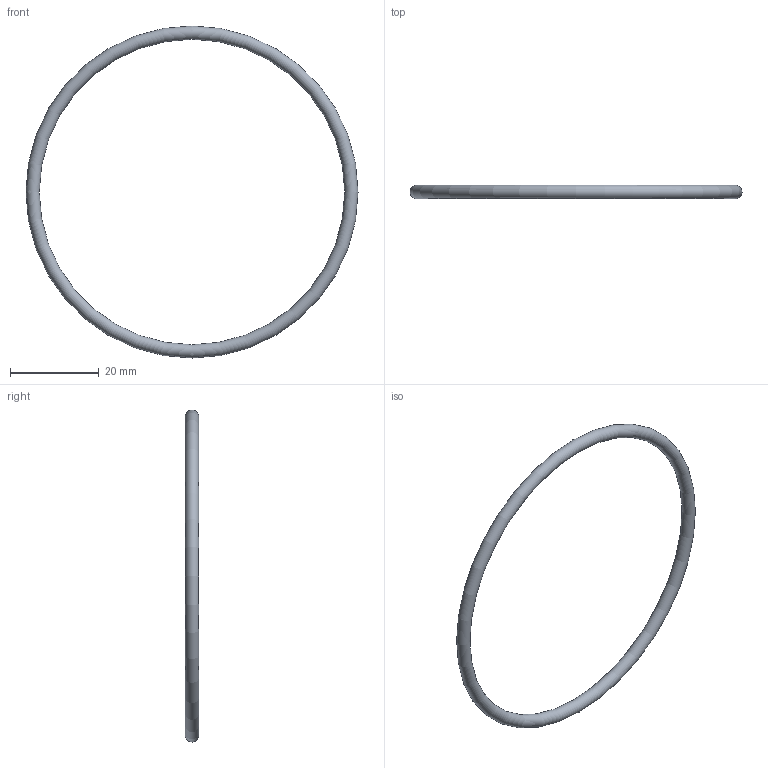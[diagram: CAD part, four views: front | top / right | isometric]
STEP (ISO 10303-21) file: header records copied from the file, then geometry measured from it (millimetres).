
FILE_DESCRIPTION( ( 'STEP AP203' ), '1' );
FILE_NAME( 'C:/Temp/Ganter_Step_05_03_2020/data/3_5/or638/O-Ring OR638-69.00-3.00-70.stp', '2020-03-12T13:44:32', ( 'License CC BY-ND 4.0' ), ( 'CADENAS' ), ' ', 'PARTsolutions', ' ' );
FILE_SCHEMA( ( 'CONFIG_CONTROL_DESIGN' ) );
Length unit declared in the file: millimetre
Products named in the file (1): _O-Ring OR638-69.00-3.00-70
Bounding box: 75 x 3 x 75 mm (x, y, z)
Volume: 1598.9 mm3; surface area: 2131.8 mm2
Topology: 1 solids, 1 shells, 1 faces, 2 edges, 1 vertices
Faces by surface type: torus 1
Entity records: 62 total; most frequent: CC_DESIGN_PERSON_AND_ORGANIZATION_ASSIGNMENT 5, PERSON_AND_ORGANIZATION_ROLE 4, DIRECTION 4, CARTESIAN_POINT 3, DATE_TIME_ROLE 2, CC_DESIGN_DATE_AND_TIME_ASSIGNMENT 2, AXIS2_PLACEMENT_3D 2, DIMENSIONAL_EXPONENTS 2
